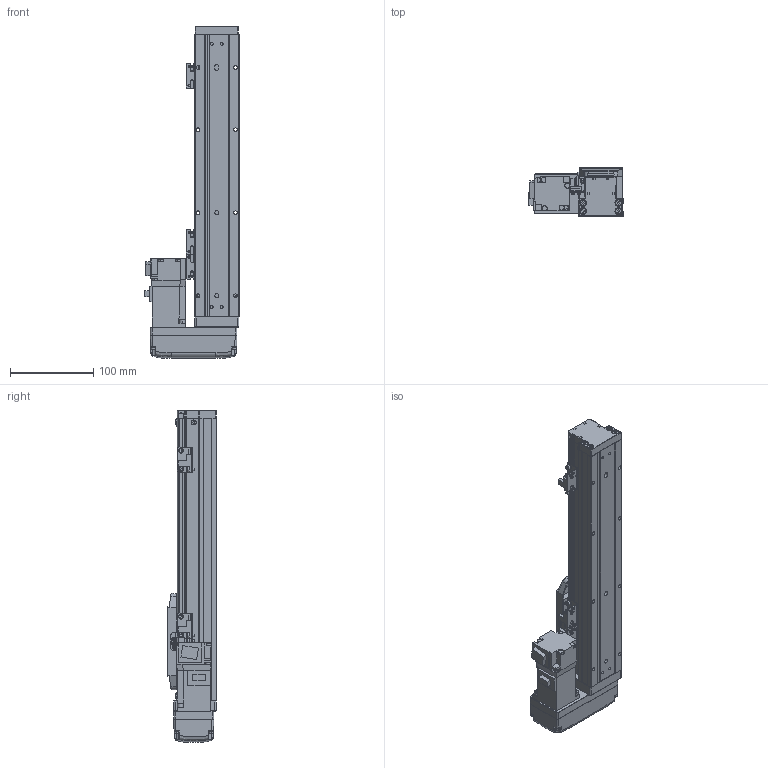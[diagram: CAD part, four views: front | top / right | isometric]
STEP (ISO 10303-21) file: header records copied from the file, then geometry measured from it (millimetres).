
FILE_DESCRIPTION (( 'STEP AP203' ), '1' );
FILE_NAME ('GTH5-200-BL-M10-C4.step', '2022-09-23T00:43:43', ( '微软用户' ), ( '微软中国' ), 'SwSTEP 2.0', 'SolidWorks 2020', '' );
FILE_SCHEMA (( 'CONFIG_CONTROL_DESIGN' ));
Length unit declared in the file: millimetre
Products named in the file (19): GTH50-003; GTH50-028; GTH50-006; GTH50-013; GTH50-022-1; GTH50-004; GTH50-023; HG-KR13; GBT 70.3-M3℅6; GBT 70.1-M3℅6; GTH50-027-1_BTHA50-027-2; BTH-M3X5X6; GBT96.1-2002 3×0.8; GTH50-026; GTH50-001_200; GTH50-024; GTH5-200-BL-M10-C4; GBT 70.1-M4×16; GBT 70.1-M2.5×6
Assembly tree (57 placements, depth 2):
  GTH5-200-BL-M10-C4
    GTH50-006
    GTH50-004
    GBT 70.3-M3℅6  x4
    BTH-M3X5X6  x8
    GTH50-001_200
    GBT 70.1-M4×16  x8
    GTH50-003
    GTH50-013
    GTH50-023  x3
    GBT 70.1-M3℅6  x12
    GBT96.1-2002 3×0.8  x6
    GTH50-024  x3
    GBT 70.1-M2.5×6  x2
    GTH50-028  x2
    GTH50-022-1
    HG-KR13
    GTH50-027-1_BTHA50-027-2
    GTH50-026
Bounding box: 113.8 x 60 x 400 mm (x, y, z)
Volume: 999210.6 mm3; surface area: 207412.6 mm2
Topology: 59 solids, 59 shells, 2144 faces, 4968 edges, 3044 vertices
Faces by surface type: plane 1142, cylinder 573, cone 219, torus 162, bspline 40, sphere 8
Entity records: 39568 total; most frequent: CARTESIAN_POINT 7851, DIRECTION 6073, ORIENTED_EDGE 5850, EDGE_CURVE 2925, AXIS2_PLACEMENT_3D 2104, VECTOR 1865, LINE 1865, VERTEX_POINT 1846
